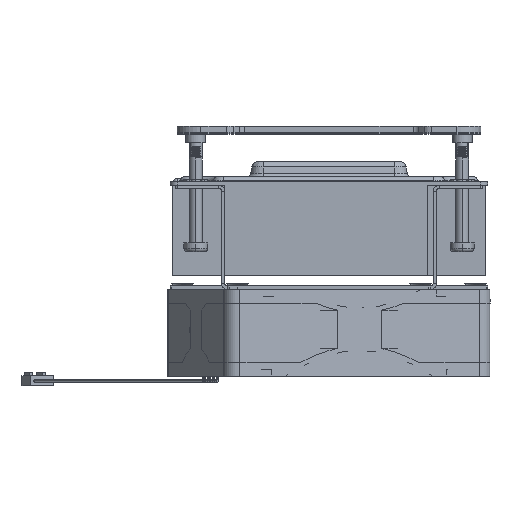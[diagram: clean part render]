
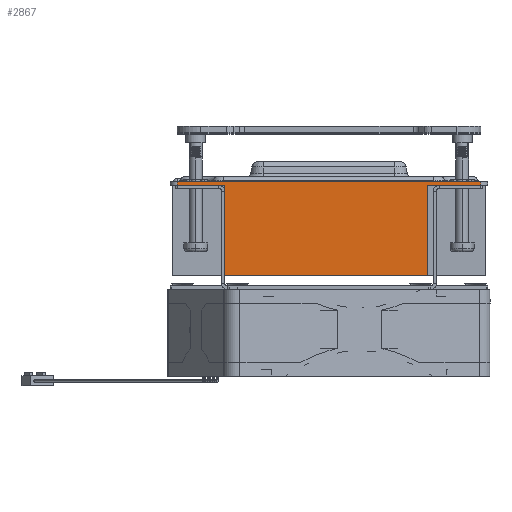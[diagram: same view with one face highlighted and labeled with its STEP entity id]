
A CAD part, front view. The second image highlights one B-rep face of the part: STEP entity #2867.
In plain terms, the highlighted planar face has unit normal (0, -1, 0).
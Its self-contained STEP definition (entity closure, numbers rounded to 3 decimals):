
#339=DIRECTION('',(-1.,0.,0.));
#340=VECTOR('',#339,89.);
#341=CARTESIAN_POINT('',(44.5,-45.7,0.));
#342=LINE('',#341,#340);
#594=DIRECTION('',(1.,0.,0.));
#595=VECTOR('',#594,13.9);
#596=CARTESIAN_POINT('',(-44.5,-45.7,-1.));
#597=LINE('',#596,#595);
#608=DIRECTION('',(0.,0.,-1.));
#609=VECTOR('',#608,26.5);
#610=CARTESIAN_POINT('',(-30.6,-45.7,-1.));
#611=LINE('',#610,#609);
#616=DIRECTION('',(0.,0.,-1.));
#617=VECTOR('',#616,26.5);
#618=CARTESIAN_POINT('',(28.9,-45.7,-1.));
#619=LINE('',#618,#617);
#620=DIRECTION('',(-1.,0.,0.));
#621=VECTOR('',#620,59.5);
#622=CARTESIAN_POINT('',(28.9,-45.7,-27.5));
#623=LINE('',#622,#621);
#628=DIRECTION('',(1.,0.,0.));
#629=VECTOR('',#628,15.6);
#630=CARTESIAN_POINT('',(28.9,-45.7,-1.));
#631=LINE('',#630,#629);
#774=DIRECTION('',(0.,0.,1.));
#775=VECTOR('',#774,1.);
#776=CARTESIAN_POINT('',(44.5,-45.7,-1.));
#777=LINE('',#776,#775);
#802=DIRECTION('',(0.,0.,-1.));
#803=VECTOR('',#802,1.);
#804=CARTESIAN_POINT('',(-44.5,-45.7,0.));
#805=LINE('',#804,#803);
#1800=CARTESIAN_POINT('',(44.5,-45.7,0.));
#1801=VERTEX_POINT('',#1800);
#1802=CARTESIAN_POINT('',(-44.5,-45.7,0.));
#1803=VERTEX_POINT('',#1802);
#1911=CARTESIAN_POINT('',(-30.6,-45.7,-1.));
#1913=VERTEX_POINT('',#1911);
#1919=CARTESIAN_POINT('',(-44.5,-45.7,-1.));
#1920=VERTEX_POINT('',#1919);
#1925=CARTESIAN_POINT('',(-30.6,-45.7,-27.5));
#1926=VERTEX_POINT('',#1925);
#1929=CARTESIAN_POINT('',(28.9,-45.7,-1.));
#1930=CARTESIAN_POINT('',(44.5,-45.7,-1.));
#1931=VERTEX_POINT('',#1929);
#1932=VERTEX_POINT('',#1930);
#1933=CARTESIAN_POINT('',(28.9,-45.7,-27.5));
#1934=VERTEX_POINT('',#1933);
#2847=CARTESIAN_POINT('',(-44.5,-45.7,0.));
#2848=DIRECTION('',(0.,-1.,0.));
#2849=DIRECTION('',(0.,0.,-1.));
#2850=AXIS2_PLACEMENT_3D('',#2847,#2848,#2849);
#2851=PLANE('',#2850);
#2853=ORIENTED_EDGE('',*,*,#2852,.F.);
#2855=ORIENTED_EDGE('',*,*,#2854,.T.);
#2857=ORIENTED_EDGE('',*,*,#2856,.T.);
#2858=ORIENTED_EDGE('',*,*,#2838,.F.);
#2859=ORIENTED_EDGE('',*,*,#2821,.F.);
#2861=ORIENTED_EDGE('',*,*,#2860,.F.);
#2862=ORIENTED_EDGE('',*,*,#2620,.F.);
#2864=ORIENTED_EDGE('',*,*,#2863,.F.);
#2865=EDGE_LOOP('',(#2853,#2855,#2857,#2858,#2859,#2861,#2862,#2864));
#2866=FACE_OUTER_BOUND('',#2865,.F.);
#2867=ADVANCED_FACE('',(#2866),#2851,.T.);
#2620=EDGE_CURVE('',#1801,#1803,#342,.T.);
#2821=EDGE_CURVE('',#1920,#1913,#597,.T.);
#2838=EDGE_CURVE('',#1913,#1926,#611,.T.);
#2852=EDGE_CURVE('',#1931,#1932,#631,.T.);
#2854=EDGE_CURVE('',#1931,#1934,#619,.T.);
#2856=EDGE_CURVE('',#1934,#1926,#623,.T.);
#2860=EDGE_CURVE('',#1803,#1920,#805,.T.);
#2863=EDGE_CURVE('',#1932,#1801,#777,.T.);
